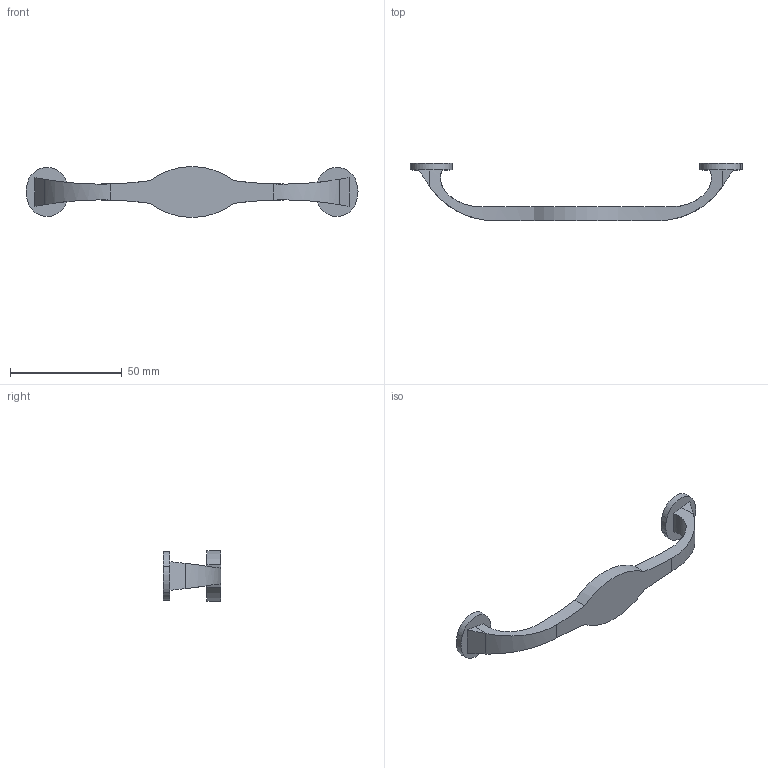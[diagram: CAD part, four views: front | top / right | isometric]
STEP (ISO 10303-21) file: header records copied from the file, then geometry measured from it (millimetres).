
FILE_DESCRIPTION( ( 'STEP AP214' ), '1' );
FILE_NAME( 'C:/Users/swati/Swati/Swati/29-02-2016/9208026/9208026.stp', ' ', ( ' ' ), ( ' ' ), 'PSStep 15.0.47', 'PARTsolutions', ' ' );
FILE_SCHEMA( ( 'AUTOMOTIVE_DESIGN { 1 0 10303 214 1 1 1 1 }' ) );
Length unit declared in the file: millimetre
Products named in the file (2): 95 ; _
Assembly tree (1 placements, depth 2):
  95 
    _
Bounding box: 148.74 x 25.73 x 22.8 mm (x, y, z)
Volume: 11555.7 mm3; surface area: 6740.6 mm2
Topology: 1 solids, 1 shells, 36 faces, 90 edges, 60 vertices
Faces by surface type: cylinder 26, plane 10
Full cylindrical faces by diameter (mm): 4 x2
Entity records: 1570 total; most frequent: CARTESIAN_POINT 374, DIRECTION 192, ORIENTED_EDGE 176, EDGE_CURVE 88, AXIS2_PLACEMENT_3D 82, VERTEX_POINT 60, EDGE_LOOP 42, CIRCLE 40
